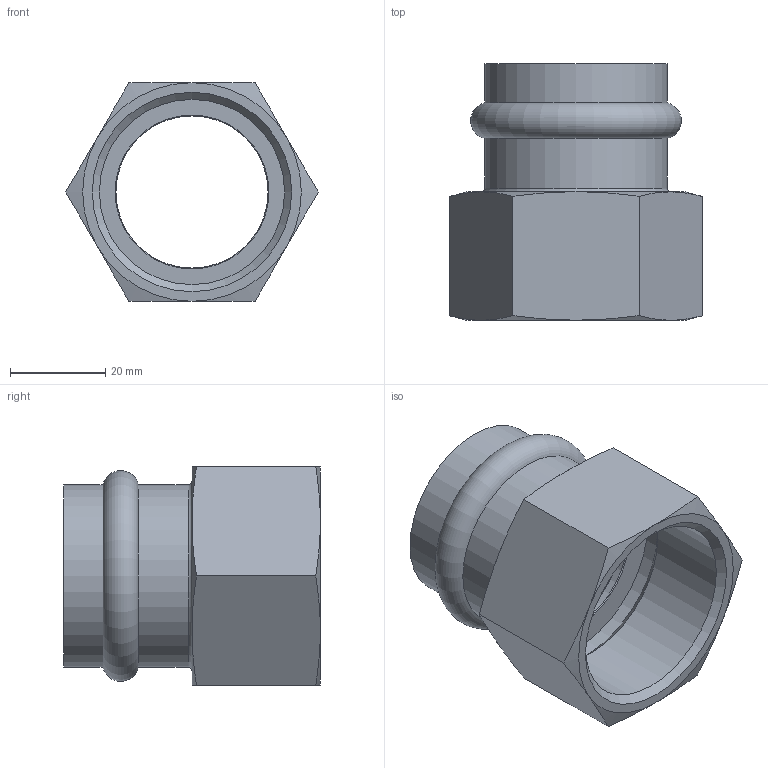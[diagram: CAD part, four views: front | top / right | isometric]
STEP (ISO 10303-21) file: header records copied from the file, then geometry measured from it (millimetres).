
FILE_DESCRIPTION(/* description */ (''),/* implementation_level */ '2;1');
FILE_NAME(/* name */ 'C:\Users\Vault\Desktop\Articoli_INOXPRES UNIKO\190_INOXPRES_UNIKO\190114035U_Inoxpres_Uniko.stp',/* time_stamp */ '2022-10-06T11:35:11+02:00',/* author */ ('Vault'),/* organization */ ('Raccorderie metalliche s.p.a. '),/* preprocessor_version */ 'ST-DEVELOPER v18.1',/* originating_system */ 'Autodesk Inventor 2020',/* authorisation */ 'Raccorderie metalliche s.p.a. ');
FILE_SCHEMA (('AUTOMOTIVE_DESIGN { 1 0 10303 214 3 1 1 }'));
Length unit declared in the file: millimetre
Products named in the file (1): 190114035V_Inoxpres_Uniko
Bounding box: 53.12 x 54 x 46 mm (x, y, z)
Volume: 23751.9 mm3; surface area: 16555.8 mm2
Topology: 1 solids, 1 shells, 40 faces, 98 edges, 63 vertices
Faces by surface type: cone 18, plane 11, cylinder 7, torus 4
Full cylindrical faces by diameter (mm): 32 x1, 35.4 x2, 38.4 x2, 38.952 x1, 43 x1
Entity records: 1222 total; most frequent: CARTESIAN_POINT 250, DIRECTION 211, ORIENTED_EDGE 196, EDGE_CURVE 98, AXIS2_PLACEMENT_3D 96, VERTEX_POINT 63, CIRCLE 55, EDGE_LOOP 45
